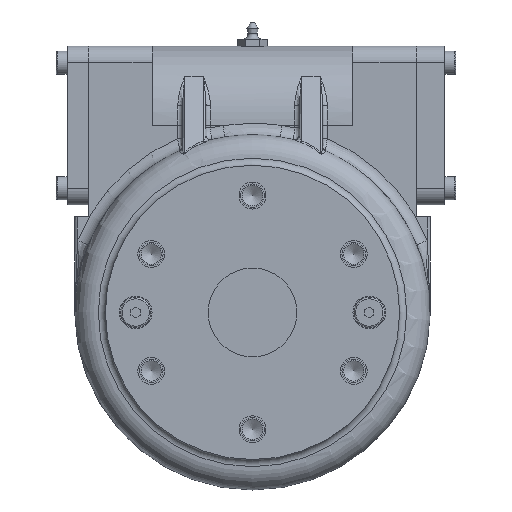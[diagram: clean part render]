
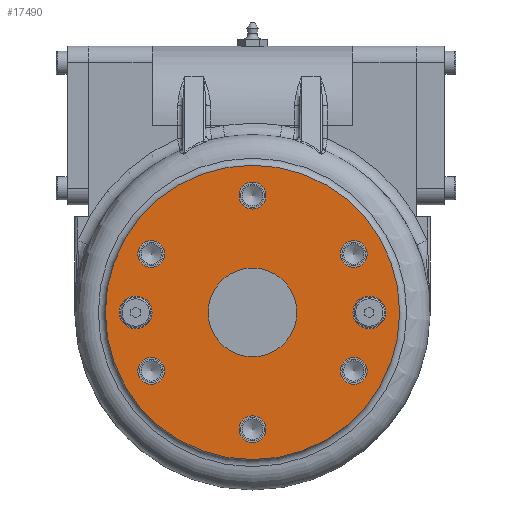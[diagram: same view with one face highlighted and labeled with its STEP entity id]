
A CAD part, front view. The second image highlights one B-rep face of the part: STEP entity #17490.
In plain terms, the highlighted planar face has unit normal (0, -1, 0).
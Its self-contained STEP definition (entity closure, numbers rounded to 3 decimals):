
#113 = DIRECTION ( 'NONE',  ( 0., -1., 0. ) ) ;
#428 = VERTEX_POINT ( 'NONE', #21578 ) ;
#863 = CIRCLE ( 'NONE', #7212, 63. ) ;
#872 = FACE_BOUND ( 'NONE', #7573, .T. ) ;
#1291 = ORIENTED_EDGE ( 'NONE', *, *, #6641, .F. ) ;
#1723 = DIRECTION ( 'NONE',  ( 0., -1., 0. ) ) ;
#2055 = DIRECTION ( 'NONE',  ( 0., 0., -1. ) ) ;
#2315 = DIRECTION ( 'NONE',  ( 0., 1., 0. ) ) ;
#3042 = AXIS2_PLACEMENT_3D ( 'NONE', #15411, #3108, #13434 ) ;
#3079 = EDGE_CURVE ( 'NONE', #7763, #7763, #3849, .T. ) ;
#3108 = DIRECTION ( 'NONE',  ( 0., -1., 0. ) ) ;
#3118 = FACE_BOUND ( 'NONE', #18690, .T. ) ;
#3232 = AXIS2_PLACEMENT_3D ( 'NONE', #16082, #26518, #3480 ) ;
#3480 = DIRECTION ( 'NONE',  ( 0., 0., 1. ) ) ;
#3713 = CARTESIAN_POINT ( 'NONE',  ( 43.301, -60.5, 30.75 ) ) ;
#3774 = EDGE_CURVE ( 'NONE', #14234, #14234, #863, .T. ) ;
#3810 = AXIS2_PLACEMENT_3D ( 'NONE', #10546, #6236, #22933 ) ;
#3849 = CIRCLE ( 'NONE', #18969, 19. ) ;
#4217 = VERTEX_POINT ( 'NONE', #10240 ) ;
#4583 = VERTEX_POINT ( 'NONE', #15592 ) ;
#5197 = ORIENTED_EDGE ( 'NONE', *, *, #9960, .F. ) ;
#5837 = VERTEX_POINT ( 'NONE', #7209 ) ;
#6006 = DIRECTION ( 'NONE',  ( 0., 0., 1. ) ) ;
#6236 = DIRECTION ( 'NONE',  ( 0., -1., 0. ) ) ;
#6371 = DIRECTION ( 'NONE',  ( 0., 1., 0. ) ) ;
#6459 = AXIS2_PLACEMENT_3D ( 'NONE', #10065, #22521, #6006 ) ;
#6641 = EDGE_CURVE ( 'NONE', #4583, #4583, #25140, .T. ) ;
#6699 = DIRECTION ( 'NONE',  ( 0., 0., 1. ) ) ;
#6707 = CARTESIAN_POINT ( 'NONE',  ( 43.301, -60.5, -25. ) ) ;
#6793 = EDGE_CURVE ( 'NONE', #5837, #5837, #7004, .T. ) ;
#7004 = CIRCLE ( 'NONE', #15795, 5.75 ) ;
#7014 = EDGE_CURVE ( 'NONE', #428, #428, #17340, .T. ) ;
#7209 = CARTESIAN_POINT ( 'NONE',  ( -43.301, -60.5, 30.75 ) ) ;
#7212 = AXIS2_PLACEMENT_3D ( 'NONE', #12342, #6371, #20852 ) ;
#7573 = EDGE_LOOP ( 'NONE', ( #5197 ) ) ;
#7763 = VERTEX_POINT ( 'NONE', #25392 ) ;
#7905 = FACE_BOUND ( 'NONE', #15479, .T. ) ;
#8507 = CARTESIAN_POINT ( 'NONE',  ( 0., -60.5, -50. ) ) ;
#8878 = DIRECTION ( 'NONE',  ( 0., 0., 1. ) ) ;
#9249 = CIRCLE ( 'NONE', #3042, 5.75 ) ;
#9888 = DIRECTION ( 'NONE',  ( 0., 0., 1. ) ) ;
#9960 = EDGE_CURVE ( 'NONE', #14242, #14242, #18699, .T. ) ;
#10065 = CARTESIAN_POINT ( 'NONE',  ( -50., -60.5, 0. ) ) ;
#10179 = CIRCLE ( 'NONE', #20910, 7. ) ;
#10240 = CARTESIAN_POINT ( 'NONE',  ( -43.301, -60.5, -19.25 ) ) ;
#10546 = CARTESIAN_POINT ( 'NONE',  ( 43.301, -60.5, 25. ) ) ;
#10871 = AXIS2_PLACEMENT_3D ( 'NONE', #8507, #21170, #6699 ) ;
#10878 = DIRECTION ( 'NONE',  ( 0., -1., 0. ) ) ;
#10891 = EDGE_LOOP ( 'NONE', ( #21023 ) ) ;
#11317 = ORIENTED_EDGE ( 'NONE', *, *, #16935, .F. ) ;
#11335 = ORIENTED_EDGE ( 'NONE', *, *, #18958, .F. ) ;
#11346 = AXIS2_PLACEMENT_3D ( 'NONE', #14005, #1723, #20175 ) ;
#11797 = FACE_BOUND ( 'NONE', #10891, .T. ) ;
#11941 = VERTEX_POINT ( 'NONE', #18652 ) ;
#12157 = CARTESIAN_POINT ( 'NONE',  ( 50., -60.5, 0. ) ) ;
#12342 = CARTESIAN_POINT ( 'NONE',  ( 0., -60.5, 0. ) ) ;
#12914 = ORIENTED_EDGE ( 'NONE', *, *, #25863, .F. ) ;
#13207 = ORIENTED_EDGE ( 'NONE', *, *, #3079, .T. ) ;
#13403 = FACE_OUTER_BOUND ( 'NONE', #19700, .T. ) ;
#13434 = DIRECTION ( 'NONE',  ( 0., 0., 1. ) ) ;
#13727 = FACE_BOUND ( 'NONE', #14828, .T. ) ;
#13893 = AXIS2_PLACEMENT_3D ( 'NONE', #6707, #10878, #8878 ) ;
#14005 = CARTESIAN_POINT ( 'NONE',  ( 0., -60.5, 50. ) ) ;
#14212 = VERTEX_POINT ( 'NONE', #3713 ) ;
#14234 = VERTEX_POINT ( 'NONE', #17270 ) ;
#14242 = VERTEX_POINT ( 'NONE', #17704 ) ;
#14413 = ORIENTED_EDGE ( 'NONE', *, *, #6793, .F. ) ;
#14828 = EDGE_LOOP ( 'NONE', ( #23523 ) ) ;
#15256 = EDGE_CURVE ( 'NONE', #14212, #14212, #19534, .T. ) ;
#15411 = CARTESIAN_POINT ( 'NONE',  ( -43.301, -60.5, -25. ) ) ;
#15479 = EDGE_LOOP ( 'NONE', ( #13207 ) ) ;
#15592 = CARTESIAN_POINT ( 'NONE',  ( -50., -60.5, 7. ) ) ;
#15795 = AXIS2_PLACEMENT_3D ( 'NONE', #25256, #113, #24975 ) ;
#16001 = FACE_BOUND ( 'NONE', #20637, .T. ) ;
#16082 = CARTESIAN_POINT ( 'NONE',  ( 0., -60.5, -63. ) ) ;
#16166 = EDGE_LOOP ( 'NONE', ( #14413 ) ) ;
#16515 = EDGE_LOOP ( 'NONE', ( #12914 ) ) ;
#16935 = EDGE_CURVE ( 'NONE', #4217, #4217, #9249, .T. ) ;
#17125 = VERTEX_POINT ( 'NONE', #20837 ) ;
#17270 = CARTESIAN_POINT ( 'NONE',  ( 0., -60.5, -63. ) ) ;
#17340 = CIRCLE ( 'NONE', #13893, 5.75 ) ;
#17490 = ADVANCED_FACE ( 'NONE', ( #3118, #19254, #11797, #13727, #872, #23457, #24430, #16001, #7905, #13403 ), #26334, .T. ) ;
#17704 = CARTESIAN_POINT ( 'NONE',  ( 0., -60.5, 55.75 ) ) ;
#18652 = CARTESIAN_POINT ( 'NONE',  ( 0., -60.5, -44.25 ) ) ;
#18690 = EDGE_LOOP ( 'NONE', ( #1291 ) ) ;
#18699 = CIRCLE ( 'NONE', #11346, 5.75 ) ;
#18958 = EDGE_CURVE ( 'NONE', #11941, #11941, #25451, .T. ) ;
#18969 = AXIS2_PLACEMENT_3D ( 'NONE', #20524, #2315, #2055 ) ;
#19254 = FACE_BOUND ( 'NONE', #16515, .T. ) ;
#19534 = CIRCLE ( 'NONE', #3810, 5.75 ) ;
#19700 = EDGE_LOOP ( 'NONE', ( #24784 ) ) ;
#20175 = DIRECTION ( 'NONE',  ( 0., 0., 1. ) ) ;
#20205 = DIRECTION ( 'NONE',  ( 0., -1., 0. ) ) ;
#20524 = CARTESIAN_POINT ( 'NONE',  ( 0., -60.5, 0. ) ) ;
#20637 = EDGE_LOOP ( 'NONE', ( #11335 ) ) ;
#20837 = CARTESIAN_POINT ( 'NONE',  ( 50., -60.5, 7. ) ) ;
#20852 = DIRECTION ( 'NONE',  ( 0., 0., -1. ) ) ;
#20910 = AXIS2_PLACEMENT_3D ( 'NONE', #12157, #20205, #9888 ) ;
#21023 = ORIENTED_EDGE ( 'NONE', *, *, #7014, .F. ) ;
#21170 = DIRECTION ( 'NONE',  ( 0., -1., 0. ) ) ;
#21578 = CARTESIAN_POINT ( 'NONE',  ( 43.301, -60.5, -19.25 ) ) ;
#22521 = DIRECTION ( 'NONE',  ( 0., -1., 0. ) ) ;
#22933 = DIRECTION ( 'NONE',  ( 0., 0., 1. ) ) ;
#23035 = EDGE_LOOP ( 'NONE', ( #11317 ) ) ;
#23457 = FACE_BOUND ( 'NONE', #16166, .T. ) ;
#23523 = ORIENTED_EDGE ( 'NONE', *, *, #15256, .F. ) ;
#24430 = FACE_BOUND ( 'NONE', #23035, .T. ) ;
#24784 = ORIENTED_EDGE ( 'NONE', *, *, #3774, .F. ) ;
#24975 = DIRECTION ( 'NONE',  ( 0., 0., 1. ) ) ;
#25140 = CIRCLE ( 'NONE', #6459, 7. ) ;
#25256 = CARTESIAN_POINT ( 'NONE',  ( -43.301, -60.5, 25. ) ) ;
#25392 = CARTESIAN_POINT ( 'NONE',  ( 0., -60.5, -19. ) ) ;
#25451 = CIRCLE ( 'NONE', #10871, 5.75 ) ;
#25863 = EDGE_CURVE ( 'NONE', #17125, #17125, #10179, .T. ) ;
#26334 = PLANE ( 'NONE',  #3232 ) ;
#26518 = DIRECTION ( 'NONE',  ( 0., -1., 0. ) ) ;
